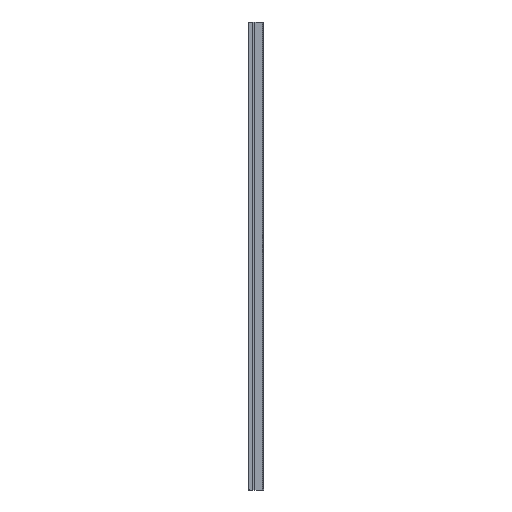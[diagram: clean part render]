
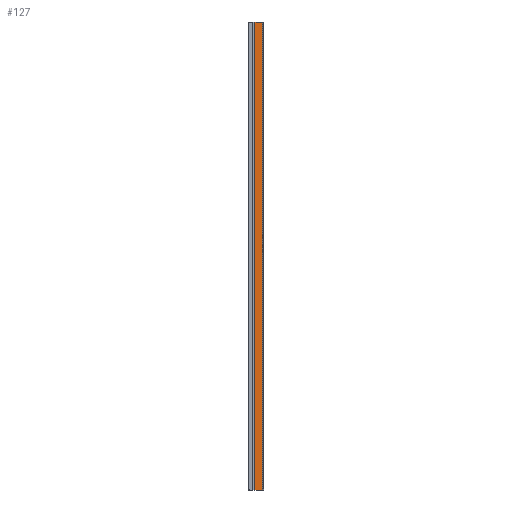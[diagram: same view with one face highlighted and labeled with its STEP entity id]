
A CAD part, left-side view. The second image highlights one B-rep face of the part: STEP entity #127.
In plain terms, the highlighted planar face has unit normal (-1, 0, 0).
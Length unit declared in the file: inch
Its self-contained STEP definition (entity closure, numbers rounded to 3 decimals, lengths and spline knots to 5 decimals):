
#44 = VERTEX_POINT ( 'NONE', #349 ) ;
#54 = EDGE_LOOP ( 'NONE', ( #244, #120, #426, #531 ) ) ;
#95 = DIRECTION ( 'NONE',  ( 0., -1., 0. ) ) ;
#120 = ORIENTED_EDGE ( 'NONE', *, *, #139, .F. ) ;
#127 = ADVANCED_FACE ( 'NONE', ( #845 ), #143, .F. ) ;
#139 = EDGE_CURVE ( 'NONE', #44, #227, #178, .T. ) ;
#143 = PLANE ( 'NONE',  #863 ) ;
#147 = VECTOR ( 'NONE', #313, 39.37008 ) ;
#178 = LINE ( 'NONE', #405, #147 ) ;
#227 = VERTEX_POINT ( 'NONE', #366 ) ;
#238 = DIRECTION ( 'NONE',  ( 0., 0., -1. ) ) ;
#244 = ORIENTED_EDGE ( 'NONE', *, *, #940, .T. ) ;
#246 = LINE ( 'NONE', #282, #422 ) ;
#256 = LINE ( 'NONE', #533, #935 ) ;
#282 = CARTESIAN_POINT ( 'NONE',  ( -0.02, 0.0375, 78.74016 ) ) ;
#313 = DIRECTION ( 'NONE',  ( 0., 0., -1. ) ) ;
#323 = EDGE_CURVE ( 'NONE', #816, #44, #246, .T. ) ;
#325 = DIRECTION ( 'NONE',  ( 1., 0., 0. ) ) ;
#349 = CARTESIAN_POINT ( 'NONE',  ( -0.02, 0.0375, 78.74016 ) ) ;
#365 = CARTESIAN_POINT ( 'NONE',  ( -0.02, 0.0375, 0. ) ) ;
#366 = CARTESIAN_POINT ( 'NONE',  ( -0.02, 0.0375, 0. ) ) ;
#405 = CARTESIAN_POINT ( 'NONE',  ( -0.02, 0.0375, 78.74016 ) ) ;
#422 = VECTOR ( 'NONE', #858, 39.37008 ) ;
#426 = ORIENTED_EDGE ( 'NONE', *, *, #323, .F. ) ;
#473 = VERTEX_POINT ( 'NONE', #866 ) ;
#531 = ORIENTED_EDGE ( 'NONE', *, *, #931, .T. ) ;
#533 = CARTESIAN_POINT ( 'NONE',  ( -0.02, 1.49172, 78.74016 ) ) ;
#612 = DIRECTION ( 'NONE',  ( 0., 0., -1. ) ) ;
#652 = CARTESIAN_POINT ( 'NONE',  ( -0.02, 0.0375, 78.74016 ) ) ;
#714 = CARTESIAN_POINT ( 'NONE',  ( -0.02, 1.49172, 78.74016 ) ) ;
#816 = VERTEX_POINT ( 'NONE', #714 ) ;
#845 = FACE_OUTER_BOUND ( 'NONE', #54, .T. ) ;
#858 = DIRECTION ( 'NONE',  ( 0., -1., 0. ) ) ;
#863 = AXIS2_PLACEMENT_3D ( 'NONE', #652, #325, #238 ) ;
#866 = CARTESIAN_POINT ( 'NONE',  ( -0.02, 1.49172, 0. ) ) ;
#891 = VECTOR ( 'NONE', #95, 39.37008 ) ;
#914 = LINE ( 'NONE', #365, #891 ) ;
#931 = EDGE_CURVE ( 'NONE', #816, #473, #256, .T. ) ;
#935 = VECTOR ( 'NONE', #612, 39.37008 ) ;
#940 = EDGE_CURVE ( 'NONE', #473, #227, #914, .T. ) ;
